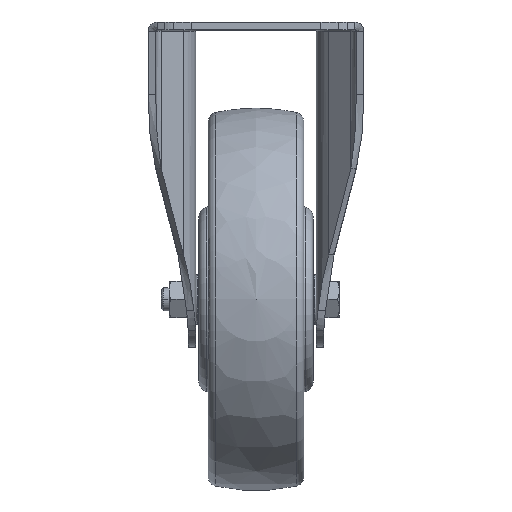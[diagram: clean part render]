
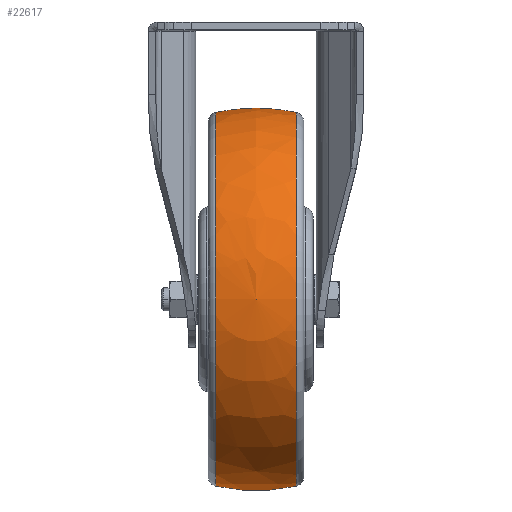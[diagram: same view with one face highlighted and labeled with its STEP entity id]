
A CAD part, top view. The second image highlights one B-rep face of the part: STEP entity #22617.
In plain terms, the highlighted spherical face has radius 100 mm.
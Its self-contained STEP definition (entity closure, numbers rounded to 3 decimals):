
#196 = CIRCLE ( 'NONE', #37707, 97.759 ) ;
#2236 = ORIENTED_EDGE ( 'NONE', *, *, #15626, .F. ) ;
#5005 = CARTESIAN_POINT ( 'NONE',  ( -21.053, 0., 0. ) ) ;
#5822 = AXIS2_PLACEMENT_3D ( 'NONE', #56384, #28114, #73918 ) ;
#8775 = CARTESIAN_POINT ( 'NONE',  ( 0., 0., 0. ) ) ;
#10365 = VERTEX_POINT ( 'NONE', #24301 ) ;
#13651 = AXIS2_PLACEMENT_3D ( 'NONE', #47868, #53665, #24936 ) ;
#14315 = FACE_OUTER_BOUND ( 'NONE', #47496, .T. ) ;
#15273 = SPHERICAL_SURFACE ( 'NONE', #56380, 100. ) ;
#15626 = EDGE_CURVE ( 'NONE', #10365, #49377, #70441, .T. ) ;
#16768 = DIRECTION ( 'NONE',  ( 0., 0., -1. ) ) ;
#21497 = DIRECTION ( 'NONE',  ( -1., 0., 0. ) ) ;
#22238 = DIRECTION ( 'NONE',  ( 0., -1., 0. ) ) ;
#22617 = ADVANCED_FACE ( 'NONE', ( #14315 ), #15273, .T. ) ;
#24301 = CARTESIAN_POINT ( 'NONE',  ( 21.053, 97.759, 0. ) ) ;
#24936 = DIRECTION ( 'NONE',  ( 0., 1., 0. ) ) ;
#25803 = CARTESIAN_POINT ( 'NONE',  ( 21.053, -97.759, 0. ) ) ;
#28114 = DIRECTION ( 'NONE',  ( 0., 0., -1. ) ) ;
#28387 = VERTEX_POINT ( 'NONE', #25803 ) ;
#28536 = ORIENTED_EDGE ( 'NONE', *, *, #65093, .F. ) ;
#31337 = DIRECTION ( 'NONE',  ( 0., 0., 1. ) ) ;
#35242 = ORIENTED_EDGE ( 'NONE', *, *, #40099, .T. ) ;
#37707 = AXIS2_PLACEMENT_3D ( 'NONE', #5005, #21497, #50725 ) ;
#39110 = CARTESIAN_POINT ( 'NONE',  ( 0., 0., 0. ) ) ;
#39249 = ORIENTED_EDGE ( 'NONE', *, *, #51215, .T. ) ;
#40099 = EDGE_CURVE ( 'NONE', #28387, #52157, #52631, .T. ) ;
#40506 = AXIS2_PLACEMENT_3D ( 'NONE', #8775, #31337, #60601 ) ;
#47496 = EDGE_LOOP ( 'NONE', ( #39249, #35242, #28536, #2236 ) ) ;
#47868 = CARTESIAN_POINT ( 'NONE',  ( 21.053, 0., 0. ) ) ;
#49377 = VERTEX_POINT ( 'NONE', #61392 ) ;
#50725 = DIRECTION ( 'NONE',  ( 0., 1., 0. ) ) ;
#51215 = EDGE_CURVE ( 'NONE', #10365, #28387, #69736, .T. ) ;
#52157 = VERTEX_POINT ( 'NONE', #53202 ) ;
#52631 = CIRCLE ( 'NONE', #5822, 100. ) ;
#53202 = CARTESIAN_POINT ( 'NONE',  ( -21.053, -97.759, 0. ) ) ;
#53665 = DIRECTION ( 'NONE',  ( -1., 0., 0. ) ) ;
#56380 = AXIS2_PLACEMENT_3D ( 'NONE', #39110, #16768, #22238 ) ;
#56384 = CARTESIAN_POINT ( 'NONE',  ( 0., 0., 0. ) ) ;
#60601 = DIRECTION ( 'NONE',  ( 0.211, 0.978, 0. ) ) ;
#61392 = CARTESIAN_POINT ( 'NONE',  ( -21.053, 97.759, 0. ) ) ;
#65093 = EDGE_CURVE ( 'NONE', #49377, #52157, #196, .T. ) ;
#69736 = CIRCLE ( 'NONE', #13651, 97.759 ) ;
#70441 = CIRCLE ( 'NONE', #40506, 100. ) ;
#73918 = DIRECTION ( 'NONE',  ( 0.211, -0.978, 0. ) ) ;
